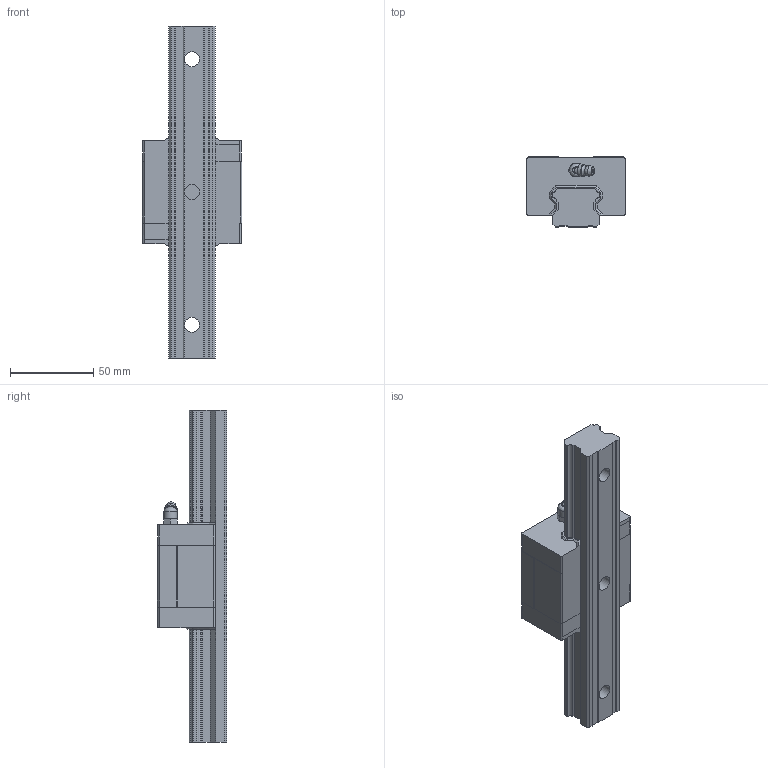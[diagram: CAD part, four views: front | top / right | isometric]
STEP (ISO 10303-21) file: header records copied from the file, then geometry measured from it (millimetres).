
FILE_DESCRIPTION((''),'2;1');
FILE_NAME('D:\製品 (図面)\カタログ用3D\変換ファイル\OZAK_3D-CAD(STEP形式)\Part2.-Linear Guides_ﾘﾆｱｶﾞｲﾄﾞ\07_Eco Guides_ｴｺｶﾞｲﾄﾞ\EGS-S\EGS30S.stp','2010-12-22T11:18:29',('Tsuchiya'),(''),'Autodesk Inventor 10','Autodesk Inventor 10','');
FILE_SCHEMA(('AUTOMOTIVE_DESIGN { 1 0 10303 214 1 1 1 1 }'));
Length unit declared in the file: millimetre
Products named in the file (3): EGS30S; EGS30S1; EGS30S2
Assembly tree (2 placements, depth 2):
  EGS30S
    EGS30S1
    EGS30S2
Bounding box: 60 x 42 x 200 mm (x, y, z)
Volume: 210867.9 mm3; surface area: 42756.9 mm2
Topology: 2 solids, 3 shells, 207 faces, 545 edges, 353 vertices
Faces by surface type: plane 132, cylinder 51, cone 20, bspline 2, sphere 1, torus 1
Full cylindrical faces by diameter (mm): 6 x2, 7 x2, 7.75 x1, 8 x3, 9 x3, 14 x3
Entity records: 6418 total; most frequent: CARTESIAN_POINT 1243, DIRECTION 1081, ORIENTED_EDGE 1030, EDGE_CURVE 515, AXIS2_PLACEMENT_3D 365, VECTOR 351, LINE 351, VERTEX_POINT 346
